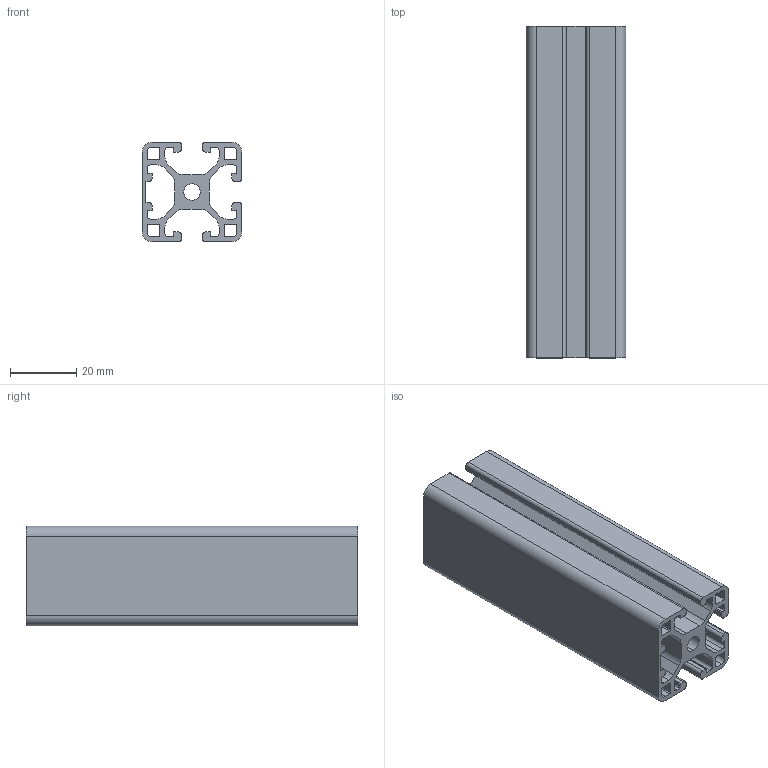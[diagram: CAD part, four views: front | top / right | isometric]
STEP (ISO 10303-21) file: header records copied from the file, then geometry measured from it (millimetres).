
FILE_DESCRIPTION (( 'STEP AP203' ), '1' );
FILE_NAME ('0106P3030-1NL.STEP', '2024-02-27T14:12:10', ( 'Windows-Benutzer' ), ( '' ), 'SwSTEP 2.0', 'SolidWorks 2023', '' );
FILE_SCHEMA (( 'CONFIG_CONTROL_DESIGN' ));
Length unit declared in the file: millimetre
Products named in the file (1): 0106P3030-1NL
Bounding box: 30 x 100 x 30 mm (x, y, z)
Volume: 34436.2 mm3; surface area: 35544.4 mm2
Topology: 1 solids, 1 shells, 156 faces, 462 edges, 308 vertices
Faces by surface type: cylinder 78, plane 78
Entity records: 5363 total; most frequent: DIRECTION 932, CARTESIAN_POINT 927, ORIENTED_EDGE 924, EDGE_CURVE 462, AXIS2_PLACEMENT_3D 313, VERTEX_POINT 308, VECTOR 306, LINE 306
